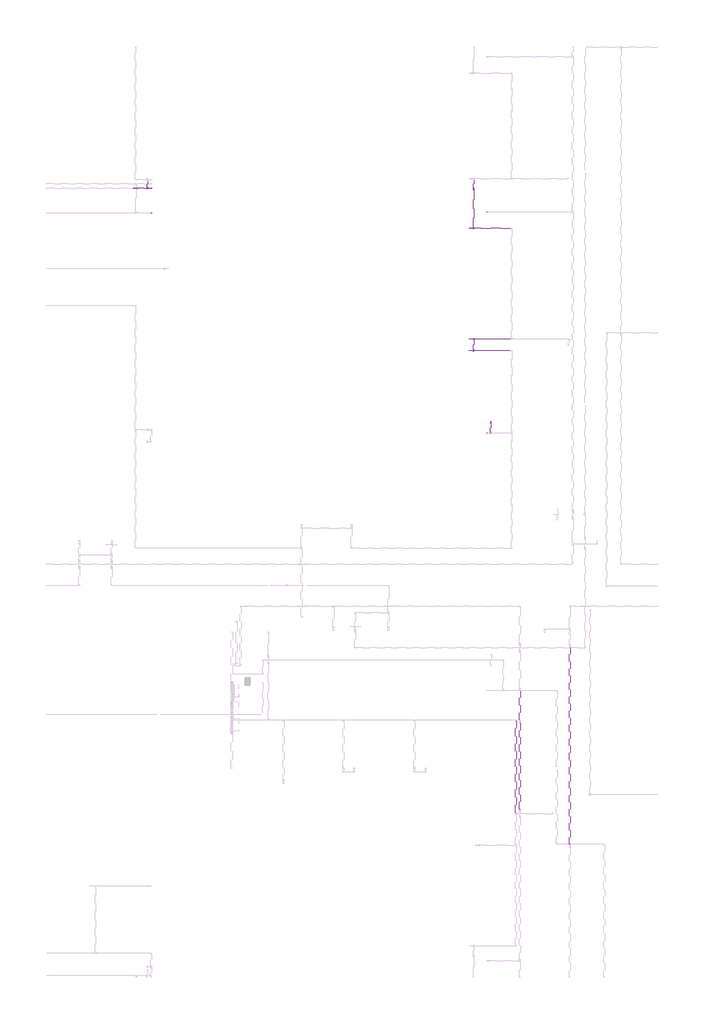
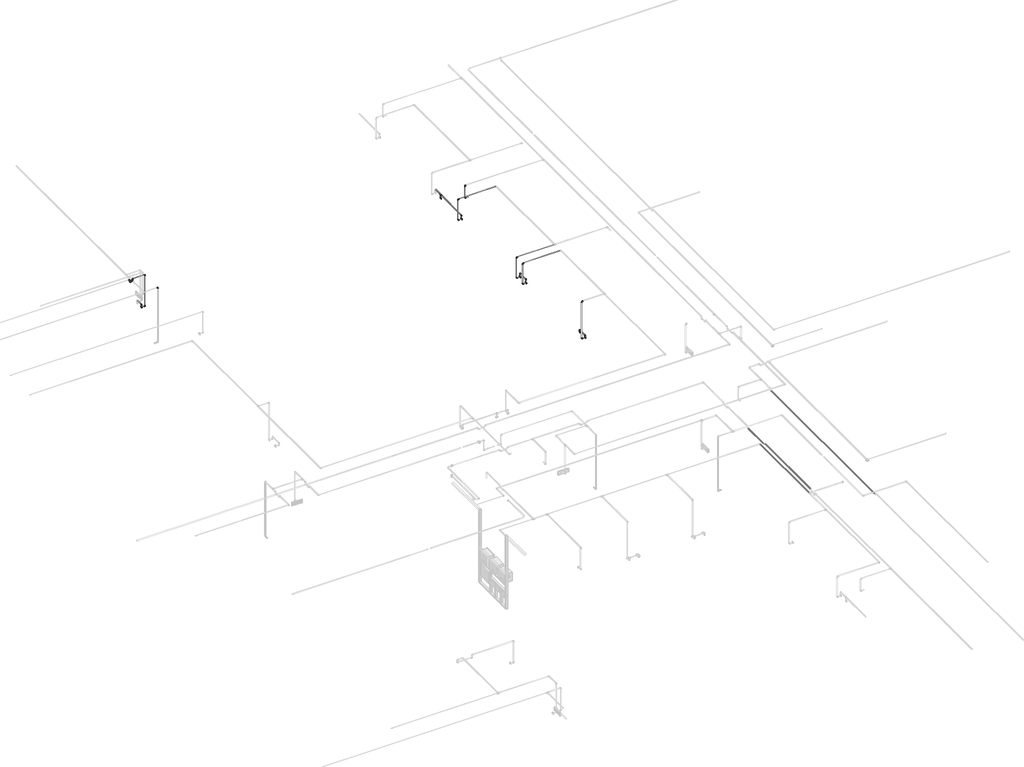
# One storey, part 23 of 40: 35 cable carrier segments, 24 cable carrier fittings, 7 electric appliances.
"""IFC4 building model written with IfcOpenShell, lengths in millimetres."""

from ifc_helpers import new_model, si_unit, point, frame, frame_2d, origin, place, context, project, spatial, circle_curve, trimmed, segment, composite_curve, outline, extrude, transform, mapped, element, save
from components import cable_carrier_fitting_69f1a801, cable_carrier_fitting_8404fc2a, cable_carrier_fitting_8fd13dfc, electric_appliance_5961a143

model = new_model("IFC4")

# Units and contexts
model_context = context("Model", 3, world=origin())
ifc_project = project(units=[si_unit("LENGTHUNIT", "METRE", prefix="MILLI")], contexts=[model_context])

# Site, building, storey
site = spatial("IfcSite", under=ifc_project)
building = spatial("IfcBuilding", under=site)
storey = spatial("IfcBuildingStorey", under=building, Name="1 этаж", Elevation=0.0)

# Cable carrier fittings
placement = place(None, origin())
cable_carrier_fitting_shape = cable_carrier_fitting_69f1a801(model_context)
element("IfcCableCarrierFitting", 1, ObjectType="ADSK_Поворот_Минимальный размер : Неспецифицируемый", at=placement, inside=storey, context=model_context, shape_type="MappedRepresentation", body=[
    mapped(cable_carrier_fitting_shape, transform((-25415.3240021, 15809.6370105, 2300.0), x_axis=(0.0, 0.0, 1.0), y_axis=(0.0, 1.0, 0.0), z_axis=(-1.0, 0.0, 0.0))),
])
element("IfcCableCarrierFitting", 2, ObjectType="ADSK_Поворот_Минимальный размер : Неспецифицируемый", at=placement, inside=storey, context=model_context, shape_type="MappedRepresentation", body=[
    mapped(cable_carrier_fitting_shape, transform((-25315.1241965, 15809.6370105, 2212.0911237), x_axis=(1.0, 0.0, 0.0), y_axis=(0.0, 0.0, 1.0), z_axis=(0.0, -1.0, 0.0))),
])
element("IfcCableCarrierFitting", 3, ObjectType="ADSK_Поворот_Минимальный размер : Неспецифицируемый", at=placement, inside=storey, context=model_context, shape_type="MappedRepresentation", body=[
    mapped(cable_carrier_fitting_shape, transform((-25315.1241965, 15809.6370105, 3187.0), x_axis=(0.0, 0.0, 1.0), y_axis=(-1.0, 0.0, 0.0), z_axis=(0.0, -1.0, 0.0))),
])
element("IfcCableCarrierFitting", 4, ObjectType="ADSK_Поворот_Минимальный размер : Неспецифицируемый", at=placement, inside=storey, context=model_context, shape_type="MappedRepresentation", body=[
    mapped(cable_carrier_fitting_shape, transform((-25690.1241965, 15809.6370105, 3187.0), x_axis=(-1.0, 0.0, 0.0), y_axis=(0.0, 0.0, -1.0), z_axis=(0.0, -1.0, 0.0))),
])
element("IfcCableCarrierFitting", 5, ObjectType="ADSK_Поворот_Минимальный размер : Неспецифицируемый", at=placement, inside=storey, context=model_context, shape_type="MappedRepresentation", body=[
    mapped(cable_carrier_fitting_shape, transform((-25690.1241965, 15809.6370105, 3120.0), x_axis=(0.0, 0.0, -1.0), y_axis=(-1.0, 0.0, 0.0), z_axis=(0.0, 1.0, 0.0))),
])
element("IfcCableCarrierFitting", 6, ObjectType="ADSK_Поворот_Минимальный размер : Неспецифицируемый", at=placement, inside=storey, context=model_context, shape_type="MappedRepresentation", body=[
    mapped(cable_carrier_fitting_shape, transform((-25762.6241965, 15809.6370105, 3120.0), x_axis=(-1.0, 0.0, 0.0), y_axis=(0.0, 0.0, 1.0), z_axis=(0.0, 1.0, 0.0))),
])
element("IfcCableCarrierFitting", 7, ObjectType="ADSK_Поворот_Минимальный размер : Неспецифицируемый", at=placement, inside=storey, context=model_context, shape_type="MappedRepresentation", body=[
    mapped(cable_carrier_fitting_shape, transform((-25762.6241965, 15809.6370105, 3187.0), x_axis=(0.0, 0.0, 1.0), y_axis=(-1.0, 0.0, 0.0), z_axis=(0.0, -1.0, 0.0))),
])
element("IfcCableCarrierFitting", 8, ObjectType="ADSK_Поворот_Минимальный размер : Неспецифицируемый", at=placement, inside=storey, context=model_context, shape_type="MappedRepresentation", body=[
    mapped(cable_carrier_fitting_shape, transform((-16646.3240021, 11759.6370105, 2650.0), x_axis=(0.0, 0.0, 1.0), y_axis=(0.0, -1.0, 0.0), z_axis=(1.0, 0.0, 0.0))),
])
element("IfcCableCarrierFitting", 9, ObjectType="ADSK_Поворот_Минимальный размер : Неспецифицируемый", at=placement, inside=storey, context=model_context, shape_type="MappedRepresentation", body=[
    mapped(cable_carrier_fitting_shape, transform((-16646.3240021, 11449.6370105, 2650.0), x_axis=(0.0, 0.0, 1.0), y_axis=(0.0, 1.0, 0.0), z_axis=(-1.0, 0.0, 0.0))),
])
element("IfcCableCarrierFitting", 10, ObjectType="ADSK_Поворот_Минимальный размер : Неспецифицируемый", at=placement, inside=storey, context=model_context, shape_type="MappedRepresentation", body=[
    mapped(cable_carrier_fitting_shape, transform((-16746.5238077, 11449.6370105, 2535.0911237), x_axis=(-1.0, 0.0, 0.0), y_axis=(0.0, 0.0, 1.0), z_axis=(0.0, 1.0, 0.0))),
])
element("IfcCableCarrierFitting", 11, ObjectType="ADSK_Поворот_Минимальный размер : Неспецифицируемый", at=placement, inside=storey, context=model_context, shape_type="MappedRepresentation", body=[
    mapped(cable_carrier_fitting_shape, transform((-16746.5238077, 11759.6370105, 2535.0527319), x_axis=(-1.0, 0.0, 0.0), y_axis=(0.0, 0.0, 1.0), z_axis=(0.0, 1.0, 0.0))),
])
element("IfcCableCarrierFitting", 12, ObjectType="ADSK_Поворот_Минимальный размер : Неспецифицируемый", at=placement, inside=storey, context=model_context, shape_type="MappedRepresentation", body=[
    mapped(cable_carrier_fitting_shape, transform((-16646.3240021, 14732.1370105, 2650.0), x_axis=(0.0, 0.0, 1.0), y_axis=(0.0, 1.0, 0.0), z_axis=(-1.0, 0.0, 0.0))),
])
element("IfcCableCarrierFitting", 13, ObjectType="ADSK_Поворот_Минимальный размер : Неспецифицируемый", at=placement, inside=storey, context=model_context, shape_type="MappedRepresentation", body=[
    mapped(cable_carrier_fitting_shape, transform((-16746.5238077, 14732.1370105, 2534.0911237), x_axis=(-1.0, 0.0, 0.0), y_axis=(0.0, 0.0, 1.0), z_axis=(0.0, 1.0, 0.0))),
])
element("IfcCableCarrierFitting", 14, ObjectType="ADSK_Поворот_Минимальный размер : Неспецифицируемый", at=placement, inside=storey, context=model_context, shape_type="MappedRepresentation", body=[
    mapped(cable_carrier_fitting_shape, transform((-16746.5238077, 14732.1370105, 3187.0), x_axis=(0.0, 0.0, 1.0), y_axis=(1.0, 0.0, 0.0), z_axis=(0.0, 1.0, 0.0))),
])
element("IfcCableCarrierFitting", 15, ObjectType="ADSK_Поворот_Минимальный размер : Неспецифицируемый", at=placement, inside=storey, context=model_context, shape_type="MappedRepresentation", body=[
    mapped(cable_carrier_fitting_shape, transform((-16746.5238077, 11759.6370105, 3187.0), x_axis=(0.0, 0.0, 1.0), y_axis=(1.0, 0.0, 0.0), z_axis=(0.0, 1.0, 0.0))),
])
element("IfcCableCarrierFitting", 16, ObjectType="ADSK_Поворот_Минимальный размер : Неспецифицируемый", at=placement, inside=storey, context=model_context, shape_type="MappedRepresentation", body=[
    mapped(cable_carrier_fitting_shape, transform((-16746.5238077, 11449.6370105, 3187.0), x_axis=(0.0, 0.0, 1.0), y_axis=(1.0, 0.0, 0.0), z_axis=(0.0, 1.0, 0.0))),
])
element("IfcCableCarrierFitting", 17, ObjectType="ADSK_Поворот_Минимальный размер : Неспецифицируемый", at=placement, inside=storey, context=model_context, shape_type="MappedRepresentation", body=[
    mapped(cable_carrier_fitting_shape, transform((-16289.5238077, 15172.1370105, 2797.4861504), x_axis=(-1.0, 0.0, 0.0), y_axis=(0.0, 0.0, 1.0), z_axis=(0.0, 1.0, 0.0))),
])
element("IfcCableCarrierFitting", 18, ObjectType="ADSK_Поворот_Минимальный размер : Неспецифицируемый", at=placement, inside=storey, context=model_context, shape_type="MappedRepresentation", body=[
    mapped(cable_carrier_fitting_shape, transform((-16189.3240021, 9518.9499394, 2100.0), x_axis=(0.0, 0.0, 1.0), y_axis=(0.0, -1.0, 0.0), z_axis=(1.0, 0.0, 0.0))),
])
element("IfcCableCarrierFitting", 19, ObjectType="ADSK_Поворот_Минимальный размер : Неспецифицируемый", at=placement, inside=storey, context=model_context, shape_type="MappedRepresentation", body=[
    mapped(cable_carrier_fitting_shape, transform((-16189.3240021, 9234.4907448, 2100.0), x_axis=(0.0, 0.0, 1.0), y_axis=(0.0, 1.0, 0.0), z_axis=(-1.0, 0.0, 0.0))),
])
element("IfcCableCarrierFitting", 20, ObjectType="ADSK_Поворот_Минимальный размер : Неспецифицируемый", at=placement, inside=storey, context=model_context, shape_type="MappedRepresentation", body=[
    mapped(cable_carrier_fitting_shape, transform((-16289.5238077, 9234.4907448, 2028.0911237), x_axis=(-1.0, 0.0, 0.0), y_axis=(0.0, 0.0, 1.0), z_axis=(0.0, 1.0, 0.0))),
])
element("IfcCableCarrierFitting", 21, ObjectType="ADSK_Поворот_Минимальный размер : Неспецифицируемый", at=placement, inside=storey, context=model_context, shape_type="MappedRepresentation", body=[
    mapped(cable_carrier_fitting_shape, transform((-16289.5238077, 9234.4907448, 3187.0), x_axis=(0.0, 0.0, 1.0), y_axis=(1.0, 0.0, 0.0), z_axis=(0.0, 1.0, 0.0))),
])
element("IfcCableCarrierFitting", 22, ObjectType="ADSK_Поворот_Минимальный размер : Неспецифицируемый", at=placement, inside=storey, context=model_context, shape_type="MappedRepresentation", body=[
    mapped(cable_carrier_fitting_shape, transform((-16289.5238077, 15172.1370105, 3180.0), x_axis=(0.0, 0.0, 1.0), y_axis=(1.0, 0.0, 0.0), z_axis=(0.0, 1.0, 0.0))),
])
cable_carrier_fitting_2_shape = cable_carrier_fitting_8404fc2a(model_context)
element("IfcCableCarrierFitting", 23, ObjectType="ADSK_Поворот_Минимальный размер : Неспецифицируемый", at=placement, inside=storey, context=model_context, shape_type="MappedRepresentation", body=[
    mapped(cable_carrier_fitting_2_shape, transform((-25315.1241965, 15147.1370102, 3190.000908), x_axis=(0.0, 0.0, 1.0), y_axis=(-0.9999999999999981, -6.229484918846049e-08, 0.0), z_axis=(6.229484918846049e-08, -0.9999999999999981, 0.0))),
])
cable_carrier_fitting_3_shape = cable_carrier_fitting_8fd13dfc(model_context)
element("IfcCableCarrierFitting", 24, ObjectType="ADSK_Тройник : ПВХ", at=placement, inside=storey, context=model_context, shape_type="MappedRepresentation", body=[
    mapped(cable_carrier_fitting_3_shape, transform((-16646.3240021, 15784.6370105, 2650.0), x_axis=(0.0, 1.0, 0.0), y_axis=(0.0, 0.0, 1.0), z_axis=(1.0, 0.0, 0.0))),
])

# Cable carrier segments
element("IfcCableCarrierSegment", 25, ObjectType="Гофрированная труба", at=placement, inside=storey, context=model_context, shape_type="SweptSolid", body=[
    extrude(outline(composite_curve([segment(trimmed(circle_curve(frame_2d((2300.0, -25415.3240021)), 10.0), [point((2300.0, -25405.3240021))], [point((2310.0, -25415.3240021))], False, "CARTESIAN"), True, "CONTINUOUS"), segment(trimmed(circle_curve(frame_2d((2300.0, -25415.3240021)), 10.0), [point((2310.0, -25415.3240021))], [point((2300.0, -25425.3240021))], False, "CARTESIAN"), True, "CONTINUOUS"), segment(trimmed(circle_curve(frame_2d((2300.0, -25415.3240021)), 10.0), [point((2300.0, -25425.3240021))], [point((2290.0, -25415.3240021))], False, "CARTESIAN"), True, "CONTINUOUS"), segment(trimmed(circle_curve(frame_2d((2300.0, -25415.3240021)), 10.0), [point((2290.0, -25415.3240021))], [point((2300.0, -25405.3240021))], False, "CARTESIAN"), True, "CONTINUOUS")], self_intersect=False)), frame((0.0, 15830.6370105, 0.0), z_axis=(0.0, 1.0, 0.0), x_axis=(0.0, 0.0, 1.0)), (0.0, 0.0, 1.0), 183.0),
])
element("IfcCableCarrierSegment", 26, ObjectType="Гофрированная труба", at=placement, inside=storey, context=model_context, shape_type="SweptSolid", body=[
    extrude(outline(composite_curve([segment(trimmed(circle_curve(frame_2d((-25415.3240021, 15809.6370105)), 10.0), [point((-25425.3240021, 15809.6370105))], [point((-25415.3240021, 15819.6370105))], False, "CARTESIAN"), True, "CONTINUOUS"), segment(trimmed(circle_curve(frame_2d((-25415.3240021, 15809.6370105)), 10.0), [point((-25415.3240021, 15819.6370105))], [point((-25405.3240021, 15809.6370105))], False, "CARTESIAN"), True, "CONTINUOUS"), segment(trimmed(circle_curve(frame_2d((-25415.3240021, 15809.6370105)), 10.0), [point((-25405.3240021, 15809.6370105))], [point((-25415.3240021, 15799.6370105))], False, "CARTESIAN"), True, "CONTINUOUS"), segment(trimmed(circle_curve(frame_2d((-25415.3240021, 15809.6370105)), 10.0), [point((-25415.3240021, 15799.6370105))], [point((-25425.3240021, 15809.6370105))], False, "CARTESIAN"), True, "CONTINUOUS")], self_intersect=False)), frame((0.0, 0.0, 2241.1207114), z_axis=(0.0, 0.0, 1.0), x_axis=(1.0, 0.0, 0.0)), (0.0, 0.0, 1.0), 37.8792886),
])
element("IfcCableCarrierSegment", 27, ObjectType="Гофрированная труба", at=placement, inside=storey, context=model_context, shape_type="SweptSolid", body=[
    extrude(outline(composite_curve([segment(trimmed(circle_curve(frame_2d((15809.6370105, 3187.0)), 10.0), [point((15819.6370105, 3187.0))], [point((15809.6370105, 3177.0))], False, "CARTESIAN"), True, "CONTINUOUS"), segment(trimmed(circle_curve(frame_2d((15809.6370105, 3187.0)), 10.0), [point((15809.6370105, 3177.0))], [point((15799.6370105, 3187.0))], False, "CARTESIAN"), True, "CONTINUOUS"), segment(trimmed(circle_curve(frame_2d((15809.6370105, 3187.0)), 10.0), [point((15799.6370105, 3187.0))], [point((15809.6370105, 3197.0))], False, "CARTESIAN"), True, "CONTINUOUS"), segment(trimmed(circle_curve(frame_2d((15809.6370105, 3187.0)), 10.0), [point((15809.6370105, 3197.0))], [point((15819.6370105, 3187.0))], False, "CARTESIAN"), True, "CONTINUOUS")], self_intersect=False)), frame((-25669.1241965, 0.0, 0.0), z_axis=(1.0, 0.0, 0.0), x_axis=(0.0, 1.0, 0.0)), (0.0, 0.0, 1.0), 333.0),
])
element("IfcCableCarrierSegment", 28, ObjectType="Гофрированная труба", at=placement, inside=storey, context=model_context, shape_type="SweptSolid", body=[
    extrude(outline(composite_curve([segment(trimmed(circle_curve(frame_2d((15809.6370105, 2212.0911237)), 10.0), [point((15799.6370105, 2212.0911237))], [point((15809.6370105, 2222.0911237))], False, "CARTESIAN"), True, "CONTINUOUS"), segment(trimmed(circle_curve(frame_2d((15809.6370105, 2212.0911237)), 10.0), [point((15809.6370105, 2222.0911237))], [point((15819.6370105, 2212.0911237))], False, "CARTESIAN"), True, "CONTINUOUS"), segment(trimmed(circle_curve(frame_2d((15809.6370105, 2212.0911237)), 10.0), [point((15819.6370105, 2212.0911237))], [point((15809.6370105, 2202.0911237))], False, "CARTESIAN"), True, "CONTINUOUS"), segment(trimmed(circle_curve(frame_2d((15809.6370105, 2212.0911237)), 10.0), [point((15809.6370105, 2202.0911237))], [point((15799.6370105, 2212.0911237))], False, "CARTESIAN"), True, "CONTINUOUS")], self_intersect=False)), frame((-25412.3240021, 0.0, 0.0), z_axis=(1.0, 0.0, 0.0), x_axis=(0.0, 1.0, 0.0)), (0.0, 0.0, 1.0), 76.1998056),
])
element("IfcCableCarrierSegment", 29, ObjectType="Гофрированная труба", at=placement, inside=storey, context=model_context, shape_type="SweptSolid", body=[
    extrude(outline(composite_curve([segment(trimmed(circle_curve(frame_2d((-25315.1241965, 15809.6370105)), 10.0), [point((-25325.1241965, 15809.6370105))], [point((-25315.1241965, 15819.6370105))], False, "CARTESIAN"), True, "CONTINUOUS"), segment(trimmed(circle_curve(frame_2d((-25315.1241965, 15809.6370105)), 10.0), [point((-25315.1241965, 15819.6370105))], [point((-25305.1241965, 15809.6370105))], False, "CARTESIAN"), True, "CONTINUOUS"), segment(trimmed(circle_curve(frame_2d((-25315.1241965, 15809.6370105)), 10.0), [point((-25305.1241965, 15809.6370105))], [point((-25315.1241965, 15799.6370105))], False, "CARTESIAN"), True, "CONTINUOUS"), segment(trimmed(circle_curve(frame_2d((-25315.1241965, 15809.6370105)), 10.0), [point((-25315.1241965, 15799.6370105))], [point((-25325.1241965, 15809.6370105))], False, "CARTESIAN"), True, "CONTINUOUS")], self_intersect=False)), frame((0.0, 0.0, 2233.0911237), z_axis=(0.0, 0.0, 1.0), x_axis=(1.0, 0.0, 0.0)), (0.0, 0.0, 1.0), 932.9088763),
])
element("IfcCableCarrierSegment", 30, ObjectType="Гофрированная труба", at=placement, inside=storey, context=model_context, shape_type="SweptSolid", body=[
    extrude(outline(composite_curve([segment(trimmed(circle_curve(frame_2d((15809.6370105, 3120.0)), 10.0), [point((15819.6370105, 3120.0))], [point((15809.6370105, 3110.0))], False, "CARTESIAN"), True, "CONTINUOUS"), segment(trimmed(circle_curve(frame_2d((15809.6370105, 3120.0)), 10.0), [point((15809.6370105, 3110.0))], [point((15799.6370105, 3120.0))], False, "CARTESIAN"), True, "CONTINUOUS"), segment(trimmed(circle_curve(frame_2d((15809.6370105, 3120.0)), 10.0), [point((15799.6370105, 3120.0))], [point((15809.6370105, 3130.0))], False, "CARTESIAN"), True, "CONTINUOUS"), segment(trimmed(circle_curve(frame_2d((15809.6370105, 3120.0)), 10.0), [point((15809.6370105, 3130.0))], [point((15819.6370105, 3120.0))], False, "CARTESIAN"), True, "CONTINUOUS")], self_intersect=False)), frame((-25741.6241965, 0.0, 0.0), z_axis=(1.0, 0.0, 0.0), x_axis=(0.0, 1.0, 0.0)), (0.0, 0.0, 1.0), 30.5),
])
element("IfcCableCarrierSegment", 31, ObjectType="Гофрированная труба", at=placement, inside=storey, context=model_context, shape_type="SweptSolid", body=[
    extrude(outline(composite_curve([segment(trimmed(circle_curve(frame_2d((-25690.1241965, 15809.6370105)), 10.0), [point((-25680.1241965, 15809.6370105))], [point((-25690.1241965, 15799.6370105))], False, "CARTESIAN"), True, "CONTINUOUS"), segment(trimmed(circle_curve(frame_2d((-25690.1241965, 15809.6370105)), 10.0), [point((-25690.1241965, 15799.6370105))], [point((-25700.1241965, 15809.6370105))], False, "CARTESIAN"), True, "CONTINUOUS"), segment(trimmed(circle_curve(frame_2d((-25690.1241965, 15809.6370105)), 10.0), [point((-25700.1241965, 15809.6370105))], [point((-25690.1241965, 15819.6370105))], False, "CARTESIAN"), True, "CONTINUOUS"), segment(trimmed(circle_curve(frame_2d((-25690.1241965, 15809.6370105)), 10.0), [point((-25690.1241965, 15819.6370105))], [point((-25680.1241965, 15809.6370105))], False, "CARTESIAN"), True, "CONTINUOUS")], self_intersect=False)), frame((0.0, 0.0, 3141.0), z_axis=(0.0, 0.0, 1.0), x_axis=(1.0, 0.0, 0.0)), (0.0, 0.0, 1.0), 25.0),
])
element("IfcCableCarrierSegment", 32, ObjectType="Гофрированная труба", at=placement, inside=storey, context=model_context, shape_type="SweptSolid", body=[
    extrude(outline(composite_curve([segment(trimmed(circle_curve(frame_2d((-25762.6241965, 15809.6370105)), 10.0), [point((-25772.6241965, 15809.6370105))], [point((-25762.6241965, 15819.6370105))], False, "CARTESIAN"), True, "CONTINUOUS"), segment(trimmed(circle_curve(frame_2d((-25762.6241965, 15809.6370105)), 10.0), [point((-25762.6241965, 15819.6370105))], [point((-25752.6241965, 15809.6370105))], False, "CARTESIAN"), True, "CONTINUOUS"), segment(trimmed(circle_curve(frame_2d((-25762.6241965, 15809.6370105)), 10.0), [point((-25752.6241965, 15809.6370105))], [point((-25762.6241965, 15799.6370105))], False, "CARTESIAN"), True, "CONTINUOUS"), segment(trimmed(circle_curve(frame_2d((-25762.6241965, 15809.6370105)), 10.0), [point((-25762.6241965, 15799.6370105))], [point((-25772.6241965, 15809.6370105))], False, "CARTESIAN"), True, "CONTINUOUS")], self_intersect=False)), frame((0.0, 0.0, 3141.0), z_axis=(0.0, 0.0, 1.0), x_axis=(1.0, 0.0, 0.0)), (0.0, 0.0, 1.0), 25.0),
])
element("IfcCableCarrierSegment", 33, ObjectType="Гофрированная труба", at=placement, inside=storey, context=model_context, shape_type="SweptSolid", body=[
    extrude(outline(composite_curve([segment(trimmed(circle_curve(frame_2d((2650.0, -16646.3240021)), 10.0), [point((2650.0, -16656.3240021))], [point((2640.0, -16646.3240021))], False, "CARTESIAN"), True, "CONTINUOUS"), segment(trimmed(circle_curve(frame_2d((2650.0, -16646.3240021)), 10.0), [point((2640.0, -16646.3240021))], [point((2650.0, -16636.3240021))], False, "CARTESIAN"), True, "CONTINUOUS"), segment(trimmed(circle_curve(frame_2d((2650.0, -16646.3240021)), 10.0), [point((2650.0, -16636.3240021))], [point((2660.0, -16646.3240021))], False, "CARTESIAN"), True, "CONTINUOUS"), segment(trimmed(circle_curve(frame_2d((2650.0, -16646.3240021)), 10.0), [point((2660.0, -16646.3240021))], [point((2650.0, -16656.3240021))], False, "CARTESIAN"), True, "CONTINUOUS")], self_intersect=False)), frame((0.0, 11470.6370105, 0.0), z_axis=(0.0, 1.0, 0.0), x_axis=(0.0, 0.0, 1.0)), (0.0, 0.0, 1.0), 268.0),
])
element("IfcCableCarrierSegment", 34, ObjectType="Гофрированная труба", at=placement, inside=storey, context=model_context, shape_type="SweptSolid", body=[
    extrude(outline(composite_curve([segment(trimmed(circle_curve(frame_2d((-16646.3240021, 11449.6370105)), 10.0), [point((-16656.3240021, 11449.6370105))], [point((-16646.3240021, 11459.6370105))], False, "CARTESIAN"), True, "CONTINUOUS"), segment(trimmed(circle_curve(frame_2d((-16646.3240021, 11449.6370105)), 10.0), [point((-16646.3240021, 11459.6370105))], [point((-16636.3240021, 11449.6370105))], False, "CARTESIAN"), True, "CONTINUOUS"), segment(trimmed(circle_curve(frame_2d((-16646.3240021, 11449.6370105)), 10.0), [point((-16636.3240021, 11449.6370105))], [point((-16646.3240021, 11439.6370105))], False, "CARTESIAN"), True, "CONTINUOUS"), segment(trimmed(circle_curve(frame_2d((-16646.3240021, 11449.6370105)), 10.0), [point((-16646.3240021, 11439.6370105))], [point((-16656.3240021, 11449.6370105))], False, "CARTESIAN"), True, "CONTINUOUS")], self_intersect=False)), frame((0.0, 0.0, 2564.1207114), z_axis=(0.0, 0.0, 1.0), x_axis=(1.0, 0.0, 0.0)), (0.0, 0.0, 1.0), 64.8792886),
])
element("IfcCableCarrierSegment", 35, ObjectType="Гофрированная труба", at=placement, inside=storey, context=model_context, shape_type="SweptSolid", body=[
    extrude(outline(composite_curve([segment(trimmed(circle_curve(frame_2d((-16646.3240021, 11759.6370105)), 10.0), [point((-16656.3240021, 11759.6370105))], [point((-16646.3240021, 11769.6370105))], False, "CARTESIAN"), True, "CONTINUOUS"), segment(trimmed(circle_curve(frame_2d((-16646.3240021, 11759.6370105)), 10.0), [point((-16646.3240021, 11769.6370105))], [point((-16636.3240021, 11759.6370105))], False, "CARTESIAN"), True, "CONTINUOUS"), segment(trimmed(circle_curve(frame_2d((-16646.3240021, 11759.6370105)), 10.0), [point((-16636.3240021, 11759.6370105))], [point((-16646.3240021, 11749.6370105))], False, "CARTESIAN"), True, "CONTINUOUS"), segment(trimmed(circle_curve(frame_2d((-16646.3240021, 11759.6370105)), 10.0), [point((-16646.3240021, 11749.6370105))], [point((-16656.3240021, 11759.6370105))], False, "CARTESIAN"), True, "CONTINUOUS")], self_intersect=False)), frame((0.0, 0.0, 2564.0823197), z_axis=(0.0, 0.0, 1.0), x_axis=(1.0, 0.0, 0.0)), (0.0, 0.0, 1.0), 64.9176803),
])
element("IfcCableCarrierSegment", 36, ObjectType="Гофрированная труба", at=placement, inside=storey, context=model_context, shape_type="SweptSolid", body=[
    extrude(outline(composite_curve([segment(trimmed(circle_curve(frame_2d((11449.6370105, 3187.0)), 10.0), [point((11439.6370105, 3187.0))], [point((11449.6370105, 3197.0))], False, "CARTESIAN"), True, "CONTINUOUS"), segment(trimmed(circle_curve(frame_2d((11449.6370105, 3187.0)), 10.0), [point((11449.6370105, 3197.0))], [point((11459.6370105, 3187.0))], False, "CARTESIAN"), True, "CONTINUOUS"), segment(trimmed(circle_curve(frame_2d((11449.6370105, 3187.0)), 10.0), [point((11459.6370105, 3187.0))], [point((11449.6370105, 3177.0))], False, "CARTESIAN"), True, "CONTINUOUS"), segment(trimmed(circle_curve(frame_2d((11449.6370105, 3187.0)), 10.0), [point((11449.6370105, 3177.0))], [point((11439.6370105, 3187.0))], False, "CARTESIAN"), True, "CONTINUOUS")], self_intersect=False)), frame((-16725.5238077, 0.0, 0.0), z_axis=(1.0, 0.0, 0.0), x_axis=(0.0, 1.0, 0.0)), (0.0, 0.0, 1.0), 1082.1998056),
])
element("IfcCableCarrierSegment", 37, ObjectType="Гофрированная труба", at=placement, inside=storey, context=model_context, shape_type="SweptSolid", body=[
    extrude(outline(composite_curve([segment(trimmed(circle_curve(frame_2d((11449.6370105, 2535.0911237)), 10.0), [point((11459.6370105, 2535.0911237))], [point((11449.6370105, 2525.0911237))], False, "CARTESIAN"), True, "CONTINUOUS"), segment(trimmed(circle_curve(frame_2d((11449.6370105, 2535.0911237)), 10.0), [point((11449.6370105, 2525.0911237))], [point((11439.6370105, 2535.0911237))], False, "CARTESIAN"), True, "CONTINUOUS"), segment(trimmed(circle_curve(frame_2d((11449.6370105, 2535.0911237)), 10.0), [point((11439.6370105, 2535.0911237))], [point((11449.6370105, 2545.0911237))], False, "CARTESIAN"), True, "CONTINUOUS"), segment(trimmed(circle_curve(frame_2d((11449.6370105, 2535.0911237)), 10.0), [point((11449.6370105, 2545.0911237))], [point((11459.6370105, 2535.0911237))], False, "CARTESIAN"), True, "CONTINUOUS")], self_intersect=False)), frame((-16725.5238077, 0.0, 0.0), z_axis=(1.0, 0.0, 0.0), x_axis=(0.0, 1.0, 0.0)), (0.0, 0.0, 1.0), 76.1998056),
])
element("IfcCableCarrierSegment", 38, ObjectType="Гофрированная труба", at=placement, inside=storey, context=model_context, shape_type="SweptSolid", body=[
    extrude(outline(composite_curve([segment(trimmed(circle_curve(frame_2d((-16746.5238077, 11449.6370105)), 10.0), [point((-16756.5238077, 11449.6370105))], [point((-16746.5238077, 11459.6370105))], False, "CARTESIAN"), True, "CONTINUOUS"), segment(trimmed(circle_curve(frame_2d((-16746.5238077, 11449.6370105)), 10.0), [point((-16746.5238077, 11459.6370105))], [point((-16736.5238077, 11449.6370105))], False, "CARTESIAN"), True, "CONTINUOUS"), segment(trimmed(circle_curve(frame_2d((-16746.5238077, 11449.6370105)), 10.0), [point((-16736.5238077, 11449.6370105))], [point((-16746.5238077, 11439.6370105))], False, "CARTESIAN"), True, "CONTINUOUS"), segment(trimmed(circle_curve(frame_2d((-16746.5238077, 11449.6370105)), 10.0), [point((-16746.5238077, 11439.6370105))], [point((-16756.5238077, 11449.6370105))], False, "CARTESIAN"), True, "CONTINUOUS")], self_intersect=False)), frame((0.0, 0.0, 2556.0911237), z_axis=(0.0, 0.0, 1.0), x_axis=(1.0, 0.0, 0.0)), (0.0, 0.0, 1.0), 609.9088763),
])
element("IfcCableCarrierSegment", 39, ObjectType="Гофрированная труба", at=placement, inside=storey, context=model_context, shape_type="SweptSolid", body=[
    extrude(outline(composite_curve([segment(trimmed(circle_curve(frame_2d((11759.6370105, 2535.0527319)), 10.0), [point((11769.6370105, 2535.0527319))], [point((11759.6370105, 2525.0527319))], False, "CARTESIAN"), True, "CONTINUOUS"), segment(trimmed(circle_curve(frame_2d((11759.6370105, 2535.0527319)), 10.0), [point((11759.6370105, 2525.0527319))], [point((11749.6370105, 2535.0527319))], False, "CARTESIAN"), True, "CONTINUOUS"), segment(trimmed(circle_curve(frame_2d((11759.6370105, 2535.0527319)), 10.0), [point((11749.6370105, 2535.0527319))], [point((11759.6370105, 2545.0527319))], False, "CARTESIAN"), True, "CONTINUOUS"), segment(trimmed(circle_curve(frame_2d((11759.6370105, 2535.0527319)), 10.0), [point((11759.6370105, 2545.0527319))], [point((11769.6370105, 2535.0527319))], False, "CARTESIAN"), True, "CONTINUOUS")], self_intersect=False)), frame((-16725.5238077, 0.0, 0.0), z_axis=(1.0, 0.0, 0.0), x_axis=(0.0, 1.0, 0.0)), (0.0, 0.0, 1.0), 76.1998056),
])
element("IfcCableCarrierSegment", 40, ObjectType="Гофрированная труба", at=placement, inside=storey, context=model_context, shape_type="SweptSolid", body=[
    extrude(outline(composite_curve([segment(trimmed(circle_curve(frame_2d((-16746.5238077, 11759.6370105)), 10.0), [point((-16756.5238077, 11759.6370105))], [point((-16746.5238077, 11769.6370105))], False, "CARTESIAN"), True, "CONTINUOUS"), segment(trimmed(circle_curve(frame_2d((-16746.5238077, 11759.6370105)), 10.0), [point((-16746.5238077, 11769.6370105))], [point((-16736.5238077, 11759.6370105))], False, "CARTESIAN"), True, "CONTINUOUS"), segment(trimmed(circle_curve(frame_2d((-16746.5238077, 11759.6370105)), 10.0), [point((-16736.5238077, 11759.6370105))], [point((-16746.5238077, 11749.6370105))], False, "CARTESIAN"), True, "CONTINUOUS"), segment(trimmed(circle_curve(frame_2d((-16746.5238077, 11759.6370105)), 10.0), [point((-16746.5238077, 11749.6370105))], [point((-16756.5238077, 11759.6370105))], False, "CARTESIAN"), True, "CONTINUOUS")], self_intersect=False)), frame((0.0, 0.0, 2556.0527319), z_axis=(0.0, 0.0, 1.0), x_axis=(1.0, 0.0, 0.0)), (0.0, 0.0, 1.0), 609.9472681),
])
element("IfcCableCarrierSegment", 41, ObjectType="Гофрированная труба", at=placement, inside=storey, context=model_context, shape_type="SweptSolid", body=[
    extrude(outline(composite_curve([segment(trimmed(circle_curve(frame_2d((-16646.3240021, 14732.1370105)), 10.0), [point((-16656.3240021, 14732.1370105))], [point((-16646.3240021, 14742.1370105))], False, "CARTESIAN"), True, "CONTINUOUS"), segment(trimmed(circle_curve(frame_2d((-16646.3240021, 14732.1370105)), 10.0), [point((-16646.3240021, 14742.1370105))], [point((-16636.3240021, 14732.1370105))], False, "CARTESIAN"), True, "CONTINUOUS"), segment(trimmed(circle_curve(frame_2d((-16646.3240021, 14732.1370105)), 10.0), [point((-16636.3240021, 14732.1370105))], [point((-16646.3240021, 14722.1370105))], False, "CARTESIAN"), True, "CONTINUOUS"), segment(trimmed(circle_curve(frame_2d((-16646.3240021, 14732.1370105)), 10.0), [point((-16646.3240021, 14722.1370105))], [point((-16656.3240021, 14732.1370105))], False, "CARTESIAN"), True, "CONTINUOUS")], self_intersect=False)), frame((0.0, 0.0, 2563.1207114), z_axis=(0.0, 0.0, 1.0), x_axis=(1.0, 0.0, 0.0)), (0.0, 0.0, 1.0), 65.8792886),
])
element("IfcCableCarrierSegment", 42, ObjectType="Гофрированная труба", at=placement, inside=storey, context=model_context, shape_type="SweptSolid", body=[
    extrude(outline(composite_curve([segment(trimmed(circle_curve(frame_2d((-16646.3240021, 15784.6370105)), 10.0), [point((-16656.3240021, 15784.6370105))], [point((-16646.3240021, 15794.6370105))], False, "CARTESIAN"), True, "CONTINUOUS"), segment(trimmed(circle_curve(frame_2d((-16646.3240021, 15784.6370105)), 10.0), [point((-16646.3240021, 15794.6370105))], [point((-16636.3240021, 15784.6370105))], False, "CARTESIAN"), True, "CONTINUOUS"), segment(trimmed(circle_curve(frame_2d((-16646.3240021, 15784.6370105)), 10.0), [point((-16636.3240021, 15784.6370105))], [point((-16646.3240021, 15774.6370105))], False, "CARTESIAN"), True, "CONTINUOUS"), segment(trimmed(circle_curve(frame_2d((-16646.3240021, 15784.6370105)), 10.0), [point((-16646.3240021, 15774.6370105))], [point((-16656.3240021, 15784.6370105))], False, "CARTESIAN"), True, "CONTINUOUS")], self_intersect=False)), frame((0.0, 0.0, 2563.1207114), z_axis=(0.0, 0.0, 1.0), x_axis=(1.0, 0.0, 0.0)), (0.0, 0.0, 1.0), 56.8792886),
])
element("IfcCableCarrierSegment", 43, ObjectType="Гофрированная труба", at=placement, inside=storey, context=model_context, shape_type="SweptSolid", body=[
    extrude(outline(composite_curve([segment(trimmed(circle_curve(frame_2d((2650.0, -16646.3240021)), 10.0), [point((2650.0, -16656.3240021))], [point((2640.0, -16646.3240021))], False, "CARTESIAN"), True, "CONTINUOUS"), segment(trimmed(circle_curve(frame_2d((2650.0, -16646.3240021)), 10.0), [point((2640.0, -16646.3240021))], [point((2650.0, -16636.3240021))], False, "CARTESIAN"), True, "CONTINUOUS"), segment(trimmed(circle_curve(frame_2d((2650.0, -16646.3240021)), 10.0), [point((2650.0, -16636.3240021))], [point((2660.0, -16646.3240021))], False, "CARTESIAN"), True, "CONTINUOUS"), segment(trimmed(circle_curve(frame_2d((2650.0, -16646.3240021)), 10.0), [point((2660.0, -16646.3240021))], [point((2650.0, -16656.3240021))], False, "CARTESIAN"), True, "CONTINUOUS")], self_intersect=False)), frame((0.0, 14753.1370105, 0.0), z_axis=(0.0, 1.0, 0.0), x_axis=(0.0, 0.0, 1.0)), (0.0, 0.0, 1.0), 1001.5),
])
element("IfcCableCarrierSegment", 44, ObjectType="Гофрированная труба", at=placement, inside=storey, context=model_context, shape_type="SweptSolid", body=[
    extrude(outline(composite_curve([segment(trimmed(circle_curve(frame_2d((2650.0, -16646.3240021)), 10.0), [point((2650.0, -16656.3240021))], [point((2640.0, -16646.3240021))], False, "CARTESIAN"), True, "CONTINUOUS"), segment(trimmed(circle_curve(frame_2d((2650.0, -16646.3240021)), 10.0), [point((2640.0, -16646.3240021))], [point((2650.0, -16636.3240021))], False, "CARTESIAN"), True, "CONTINUOUS"), segment(trimmed(circle_curve(frame_2d((2650.0, -16646.3240021)), 10.0), [point((2650.0, -16636.3240021))], [point((2660.0, -16646.3240021))], False, "CARTESIAN"), True, "CONTINUOUS"), segment(trimmed(circle_curve(frame_2d((2650.0, -16646.3240021)), 10.0), [point((2660.0, -16646.3240021))], [point((2650.0, -16656.3240021))], False, "CARTESIAN"), True, "CONTINUOUS")], self_intersect=False)), frame((0.0, 15814.6370105, 0.0), z_axis=(0.0, 1.0, 0.0), x_axis=(0.0, 0.0, 1.0)), (0.0, 0.0, 1.0), 229.0),
])
element("IfcCableCarrierSegment", 45, ObjectType="Гофрированная труба", at=placement, inside=storey, context=model_context, shape_type="SweptSolid", body=[
    extrude(outline(composite_curve([segment(trimmed(circle_curve(frame_2d((14732.1370105, 3187.0)), 10.0), [point((14722.1370105, 3187.0))], [point((14732.1370105, 3197.0))], False, "CARTESIAN"), True, "CONTINUOUS"), segment(trimmed(circle_curve(frame_2d((14732.1370105, 3187.0)), 10.0), [point((14732.1370105, 3197.0))], [point((14742.1370105, 3187.0))], False, "CARTESIAN"), True, "CONTINUOUS"), segment(trimmed(circle_curve(frame_2d((14732.1370105, 3187.0)), 10.0), [point((14742.1370105, 3187.0))], [point((14732.1370105, 3177.0))], False, "CARTESIAN"), True, "CONTINUOUS"), segment(trimmed(circle_curve(frame_2d((14732.1370105, 3187.0)), 10.0), [point((14732.1370105, 3177.0))], [point((14722.1370105, 3187.0))], False, "CARTESIAN"), True, "CONTINUOUS")], self_intersect=False)), frame((-16725.5238077, 0.0, 0.0), z_axis=(1.0, 0.0, 0.0), x_axis=(0.0, 1.0, 0.0)), (0.0, 0.0, 1.0), 1082.1998056),
])
element("IfcCableCarrierSegment", 46, ObjectType="Гофрированная труба", at=placement, inside=storey, context=model_context, shape_type="SweptSolid", body=[
    extrude(outline(composite_curve([segment(trimmed(circle_curve(frame_2d((14732.1370105, 2534.0911237)), 10.0), [point((14742.1370105, 2534.0911237))], [point((14732.1370105, 2524.0911237))], False, "CARTESIAN"), True, "CONTINUOUS"), segment(trimmed(circle_curve(frame_2d((14732.1370105, 2534.0911237)), 10.0), [point((14732.1370105, 2524.0911237))], [point((14722.1370105, 2534.0911237))], False, "CARTESIAN"), True, "CONTINUOUS"), segment(trimmed(circle_curve(frame_2d((14732.1370105, 2534.0911237)), 10.0), [point((14722.1370105, 2534.0911237))], [point((14732.1370105, 2544.0911237))], False, "CARTESIAN"), True, "CONTINUOUS"), segment(trimmed(circle_curve(frame_2d((14732.1370105, 2534.0911237)), 10.0), [point((14732.1370105, 2544.0911237))], [point((14742.1370105, 2534.0911237))], False, "CARTESIAN"), True, "CONTINUOUS")], self_intersect=False)), frame((-16725.5238077, 0.0, 0.0), z_axis=(1.0, 0.0, 0.0), x_axis=(0.0, 1.0, 0.0)), (0.0, 0.0, 1.0), 76.1998056),
])
element("IfcCableCarrierSegment", 47, ObjectType="Гофрированная труба", at=placement, inside=storey, context=model_context, shape_type="SweptSolid", body=[
    extrude(outline(composite_curve([segment(trimmed(circle_curve(frame_2d((-16746.5238077, 14732.1370105)), 10.0), [point((-16756.5238077, 14732.1370105))], [point((-16746.5238077, 14742.1370105))], False, "CARTESIAN"), True, "CONTINUOUS"), segment(trimmed(circle_curve(frame_2d((-16746.5238077, 14732.1370105)), 10.0), [point((-16746.5238077, 14742.1370105))], [point((-16736.5238077, 14732.1370105))], False, "CARTESIAN"), True, "CONTINUOUS"), segment(trimmed(circle_curve(frame_2d((-16746.5238077, 14732.1370105)), 10.0), [point((-16736.5238077, 14732.1370105))], [point((-16746.5238077, 14722.1370105))], False, "CARTESIAN"), True, "CONTINUOUS"), segment(trimmed(circle_curve(frame_2d((-16746.5238077, 14732.1370105)), 10.0), [point((-16746.5238077, 14722.1370105))], [point((-16756.5238077, 14732.1370105))], False, "CARTESIAN"), True, "CONTINUOUS")], self_intersect=False)), frame((0.0, 0.0, 2555.0911237), z_axis=(0.0, 0.0, 1.0), x_axis=(1.0, 0.0, 0.0)), (0.0, 0.0, 1.0), 610.9088763),
])
element("IfcCableCarrierSegment", 48, ObjectType="Гофрированная труба", at=placement, inside=storey, context=model_context, shape_type="SweptSolid", body=[
    extrude(outline(composite_curve([segment(trimmed(circle_curve(frame_2d((3166.0, -15509.3240021)), 10.0), [point((3166.0, -15499.3240021))], [point((3176.0, -15509.3240021))], False, "CARTESIAN"), True, "CONTINUOUS"), segment(trimmed(circle_curve(frame_2d((3166.0, -15509.3240021)), 10.0), [point((3176.0, -15509.3240021))], [point((3166.0, -15519.3240021))], False, "CARTESIAN"), True, "CONTINUOUS"), segment(trimmed(circle_curve(frame_2d((3166.0, -15509.3240021)), 10.0), [point((3166.0, -15519.3240021))], [point((3156.0, -15509.3240021))], False, "CARTESIAN"), True, "CONTINUOUS"), segment(trimmed(circle_curve(frame_2d((3166.0, -15509.3240021)), 10.0), [point((3156.0, -15509.3240021))], [point((3166.0, -15499.3240021))], False, "CARTESIAN"), True, "CONTINUOUS")], self_intersect=False)), frame((0.0, -962.9837348, 0.0), z_axis=(0.0, 1.0, 0.0), x_axis=(0.0, 0.0, 1.0)), (0.0, 0.0, 1.0), 2466.6207453),
])
element("IfcCableCarrierSegment", 49, ObjectType="Гофрированная труба", at=placement, inside=storey, context=model_context, shape_type="SweptSolid", body=[
    extrude(outline(composite_curve([segment(trimmed(circle_curve(frame_2d((15172.1370105, 2797.4861504)), 10.0), [point((15182.1370105, 2797.4861504))], [point((15172.1370105, 2787.4861504))], False, "CARTESIAN"), True, "CONTINUOUS"), segment(trimmed(circle_curve(frame_2d((15172.1370105, 2797.4861504)), 10.0), [point((15172.1370105, 2787.4861504))], [point((15162.1370105, 2797.4861504))], False, "CARTESIAN"), True, "CONTINUOUS"), segment(trimmed(circle_curve(frame_2d((15172.1370105, 2797.4861504)), 10.0), [point((15162.1370105, 2797.4861504))], [point((15172.1370105, 2807.4861504))], False, "CARTESIAN"), True, "CONTINUOUS"), segment(trimmed(circle_curve(frame_2d((15172.1370105, 2797.4861504)), 10.0), [point((15172.1370105, 2807.4861504))], [point((15182.1370105, 2797.4861504))], False, "CARTESIAN"), True, "CONTINUOUS")], self_intersect=False)), frame((-16268.5238077, 0.0, 0.0), z_axis=(1.0, 0.0, 0.0), x_axis=(0.0, 1.0, 0.0)), (0.0, 0.0, 1.0), 76.1998056),
])
element("IfcCableCarrierSegment", 50, ObjectType="Гофрированная труба", at=placement, inside=storey, context=model_context, shape_type="SweptSolid", body=[
    extrude(outline(composite_curve([segment(trimmed(circle_curve(frame_2d((-16289.5238077, 15172.1370105)), 10.0), [point((-16299.5238077, 15172.1370105))], [point((-16289.5238077, 15182.1370105))], False, "CARTESIAN"), True, "CONTINUOUS"), segment(trimmed(circle_curve(frame_2d((-16289.5238077, 15172.1370105)), 10.0), [point((-16289.5238077, 15182.1370105))], [point((-16279.5238077, 15172.1370105))], False, "CARTESIAN"), True, "CONTINUOUS"), segment(trimmed(circle_curve(frame_2d((-16289.5238077, 15172.1370105)), 10.0), [point((-16279.5238077, 15172.1370105))], [point((-16289.5238077, 15162.1370105))], False, "CARTESIAN"), True, "CONTINUOUS"), segment(trimmed(circle_curve(frame_2d((-16289.5238077, 15172.1370105)), 10.0), [point((-16289.5238077, 15162.1370105))], [point((-16299.5238077, 15172.1370105))], False, "CARTESIAN"), True, "CONTINUOUS")], self_intersect=False)), frame((0.0, 0.0, 2818.4861504), z_axis=(0.0, 0.0, 1.0), x_axis=(1.0, 0.0, 0.0)), (0.0, 0.0, 1.0), 340.5138496),
])
element("IfcCableCarrierSegment", 51, ObjectType="Гофрированная труба", at=placement, inside=storey, context=model_context, shape_type="SweptSolid", body=[
    extrude(outline(composite_curve([segment(trimmed(circle_curve(frame_2d((3130.0, -15402.3240021)), 10.0), [point((3130.0, -15392.3240021))], [point((3140.0, -15402.3240021))], False, "CARTESIAN"), True, "CONTINUOUS"), segment(trimmed(circle_curve(frame_2d((3130.0, -15402.3240021)), 10.0), [point((3140.0, -15402.3240021))], [point((3130.0, -15412.3240021))], False, "CARTESIAN"), True, "CONTINUOUS"), segment(trimmed(circle_curve(frame_2d((3130.0, -15402.3240021)), 10.0), [point((3130.0, -15412.3240021))], [point((3120.0, -15402.3240021))], False, "CARTESIAN"), True, "CONTINUOUS"), segment(trimmed(circle_curve(frame_2d((3130.0, -15402.3240021)), 10.0), [point((3120.0, -15402.3240021))], [point((3130.0, -15392.3240021))], False, "CARTESIAN"), True, "CONTINUOUS")], self_intersect=False)), frame((0.0, 1513.9212818, 0.0), z_axis=(0.0, 1.0, 0.0), x_axis=(0.0, 0.0, 1.0)), (0.0, 0.0, 1.0), 811.4314575),
])
element("IfcCableCarrierSegment", 52, ObjectType="Гофрированная труба", at=placement, inside=storey, context=model_context, shape_type="SweptSolid", body=[
    extrude(outline(composite_curve([segment(trimmed(circle_curve(frame_2d((3180.0, -15402.3240021)), 10.0), [point((3180.0, -15412.3240021))], [point((3170.0, -15402.3240021))], False, "CARTESIAN"), True, "CONTINUOUS"), segment(trimmed(circle_curve(frame_2d((3180.0, -15402.3240021)), 10.0), [point((3170.0, -15402.3240021))], [point((3180.0, -15392.3240021))], False, "CARTESIAN"), True, "CONTINUOUS"), segment(trimmed(circle_curve(frame_2d((3180.0, -15402.3240021)), 10.0), [point((3180.0, -15392.3240021))], [point((3190.0, -15402.3240021))], False, "CARTESIAN"), True, "CONTINUOUS"), segment(trimmed(circle_curve(frame_2d((3180.0, -15402.3240021)), 10.0), [point((3190.0, -15402.3240021))], [point((3180.0, -15412.3240021))], False, "CARTESIAN"), True, "CONTINUOUS")], self_intersect=False)), frame((0.0, -867.1271923, 0.0), z_axis=(0.0, 1.0, 0.0), x_axis=(0.0, 0.0, 1.0)), (0.0, 0.0, 1.0), 2312.4799315),
])
element("IfcCableCarrierSegment", 53, ObjectType="Гофрированная труба", at=placement, inside=storey, context=model_context, shape_type="SweptSolid", body=[
    extrude(outline(composite_curve([segment(trimmed(circle_curve(frame_2d((2100.0, -16189.3240021)), 10.0), [point((2100.0, -16199.3240021))], [point((2090.0, -16189.3240021))], False, "CARTESIAN"), True, "CONTINUOUS"), segment(trimmed(circle_curve(frame_2d((2100.0, -16189.3240021)), 10.0), [point((2090.0, -16189.3240021))], [point((2100.0, -16179.3240021))], False, "CARTESIAN"), True, "CONTINUOUS"), segment(trimmed(circle_curve(frame_2d((2100.0, -16189.3240021)), 10.0), [point((2100.0, -16179.3240021))], [point((2110.0, -16189.3240021))], False, "CARTESIAN"), True, "CONTINUOUS"), segment(trimmed(circle_curve(frame_2d((2100.0, -16189.3240021)), 10.0), [point((2110.0, -16189.3240021))], [point((2100.0, -16199.3240021))], False, "CARTESIAN"), True, "CONTINUOUS")], self_intersect=False)), frame((0.0, 9255.4907448, 0.0), z_axis=(0.0, 1.0, 0.0), x_axis=(0.0, 0.0, 1.0)), (0.0, 0.0, 1.0), 242.4591945),
])
element("IfcCableCarrierSegment", 54, ObjectType="Гофрированная труба", at=placement, inside=storey, context=model_context, shape_type="SweptSolid", body=[
    extrude(outline(composite_curve([segment(trimmed(circle_curve(frame_2d((-16189.3240021, 9234.4907448)), 10.0), [point((-16199.3240021, 9234.4907448))], [point((-16189.3240021, 9244.4907448))], False, "CARTESIAN"), True, "CONTINUOUS"), segment(trimmed(circle_curve(frame_2d((-16189.3240021, 9234.4907448)), 10.0), [point((-16189.3240021, 9244.4907448))], [point((-16179.3240021, 9234.4907448))], False, "CARTESIAN"), True, "CONTINUOUS"), segment(trimmed(circle_curve(frame_2d((-16189.3240021, 9234.4907448)), 10.0), [point((-16179.3240021, 9234.4907448))], [point((-16189.3240021, 9224.4907448))], False, "CARTESIAN"), True, "CONTINUOUS"), segment(trimmed(circle_curve(frame_2d((-16189.3240021, 9234.4907448)), 10.0), [point((-16189.3240021, 9224.4907448))], [point((-16199.3240021, 9234.4907448))], False, "CARTESIAN"), True, "CONTINUOUS")], self_intersect=False)), frame((0.0, 0.0, 2057.1207114), z_axis=(0.0, 0.0, 1.0), x_axis=(1.0, 0.0, 0.0)), (0.0, 0.0, 1.0), 21.8792886),
])
element("IfcCableCarrierSegment", 55, ObjectType="Гофрированная труба", at=placement, inside=storey, context=model_context, shape_type="SweptSolid", body=[
    extrude(outline(composite_curve([segment(trimmed(circle_curve(frame_2d((-16189.3240021, 9518.9499394)), 10.0), [point((-16199.3240021, 9518.9499394))], [point((-16189.3240021, 9528.9499394))], False, "CARTESIAN"), True, "CONTINUOUS"), segment(trimmed(circle_curve(frame_2d((-16189.3240021, 9518.9499394)), 10.0), [point((-16189.3240021, 9528.9499394))], [point((-16179.3240021, 9518.9499394))], False, "CARTESIAN"), True, "CONTINUOUS"), segment(trimmed(circle_curve(frame_2d((-16189.3240021, 9518.9499394)), 10.0), [point((-16179.3240021, 9518.9499394))], [point((-16189.3240021, 9508.9499394))], False, "CARTESIAN"), True, "CONTINUOUS"), segment(trimmed(circle_curve(frame_2d((-16189.3240021, 9518.9499394)), 10.0), [point((-16189.3240021, 9508.9499394))], [point((-16199.3240021, 9518.9499394))], False, "CARTESIAN"), True, "CONTINUOUS")], self_intersect=False)), frame((0.0, 0.0, 2057.1207114), z_axis=(0.0, 0.0, 1.0), x_axis=(1.0, 0.0, 0.0)), (0.0, 0.0, 1.0), 21.8792886),
])
element("IfcCableCarrierSegment", 56, ObjectType="Гофрированная труба", at=placement, inside=storey, context=model_context, shape_type="SweptSolid", body=[
    extrude(outline(composite_curve([segment(trimmed(circle_curve(frame_2d((9234.4907448, 2028.0911237)), 10.0), [point((9244.4907448, 2028.0911237))], [point((9234.4907448, 2018.0911237))], False, "CARTESIAN"), True, "CONTINUOUS"), segment(trimmed(circle_curve(frame_2d((9234.4907448, 2028.0911237)), 10.0), [point((9234.4907448, 2018.0911237))], [point((9224.4907448, 2028.0911237))], False, "CARTESIAN"), True, "CONTINUOUS"), segment(trimmed(circle_curve(frame_2d((9234.4907448, 2028.0911237)), 10.0), [point((9224.4907448, 2028.0911237))], [point((9234.4907448, 2038.0911237))], False, "CARTESIAN"), True, "CONTINUOUS"), segment(trimmed(circle_curve(frame_2d((9234.4907448, 2028.0911237)), 10.0), [point((9234.4907448, 2038.0911237))], [point((9244.4907448, 2028.0911237))], False, "CARTESIAN"), True, "CONTINUOUS")], self_intersect=False)), frame((-16268.5238077, 0.0, 0.0), z_axis=(1.0, 0.0, 0.0), x_axis=(0.0, 1.0, 0.0)), (0.0, 0.0, 1.0), 76.1998056),
])
element("IfcCableCarrierSegment", 57, ObjectType="Гофрированная труба", at=placement, inside=storey, context=model_context, shape_type="SweptSolid", body=[
    extrude(outline(composite_curve([segment(trimmed(circle_curve(frame_2d((-16289.5238077, 9234.4907448)), 10.0), [point((-16299.5238077, 9234.4907448))], [point((-16289.5238077, 9244.4907448))], False, "CARTESIAN"), True, "CONTINUOUS"), segment(trimmed(circle_curve(frame_2d((-16289.5238077, 9234.4907448)), 10.0), [point((-16289.5238077, 9244.4907448))], [point((-16279.5238077, 9234.4907448))], False, "CARTESIAN"), True, "CONTINUOUS"), segment(trimmed(circle_curve(frame_2d((-16289.5238077, 9234.4907448)), 10.0), [point((-16279.5238077, 9234.4907448))], [point((-16289.5238077, 9224.4907448))], False, "CARTESIAN"), True, "CONTINUOUS"), segment(trimmed(circle_curve(frame_2d((-16289.5238077, 9234.4907448)), 10.0), [point((-16289.5238077, 9224.4907448))], [point((-16299.5238077, 9234.4907448))], False, "CARTESIAN"), True, "CONTINUOUS")], self_intersect=False)), frame((0.0, 0.0, 2049.0911237), z_axis=(0.0, 0.0, 1.0), x_axis=(1.0, 0.0, 0.0)), (0.0, 0.0, 1.0), 1116.9088763),
])
element("IfcCableCarrierSegment", 58, ObjectType="Гофрированная труба", at=placement, inside=storey, context=model_context, shape_type="SweptSolid", body=[
    extrude(outline(composite_curve([segment(trimmed(circle_curve(frame_2d((11759.6370105, 3187.0)), 10.0), [point((11749.6370105, 3187.0))], [point((11759.6370105, 3197.0))], False, "CARTESIAN"), True, "CONTINUOUS"), segment(trimmed(circle_curve(frame_2d((11759.6370105, 3187.0)), 10.0), [point((11759.6370105, 3197.0))], [point((11769.6370105, 3187.0))], False, "CARTESIAN"), True, "CONTINUOUS"), segment(trimmed(circle_curve(frame_2d((11759.6370105, 3187.0)), 10.0), [point((11769.6370105, 3187.0))], [point((11759.6370105, 3177.0))], False, "CARTESIAN"), True, "CONTINUOUS"), segment(trimmed(circle_curve(frame_2d((11759.6370105, 3187.0)), 10.0), [point((11759.6370105, 3177.0))], [point((11749.6370105, 3187.0))], False, "CARTESIAN"), True, "CONTINUOUS")], self_intersect=False)), frame((-16725.5238077, 0.0, 0.0), z_axis=(1.0, 0.0, 0.0), x_axis=(0.0, 1.0, 0.0)), (0.0, 0.0, 1.0), 1073.1998056),
])
element("IfcCableCarrierSegment", 59, ObjectType="Гофрированная труба", at=placement, inside=storey, context=model_context, shape_type="SweptSolid", body=[
    extrude(outline(composite_curve([segment(trimmed(circle_curve(frame_2d((3130.0, -14061.8509929)), 10.0), [point((3130.0, -14071.8509929))], [point((3120.0, -14061.8509929))], False, "CARTESIAN"), True, "CONTINUOUS"), segment(trimmed(circle_curve(frame_2d((3130.0, -14061.8509929)), 10.0), [point((3120.0, -14061.8509929))], [point((3130.0, -14051.8509929))], False, "CARTESIAN"), True, "CONTINUOUS"), segment(trimmed(circle_curve(frame_2d((3130.0, -14061.8509929)), 10.0), [point((3130.0, -14051.8509929))], [point((3140.0, -14061.8509929))], False, "CARTESIAN"), True, "CONTINUOUS"), segment(trimmed(circle_curve(frame_2d((3130.0, -14061.8509929)), 10.0), [point((3140.0, -14061.8509929))], [point((3130.0, -14071.8509929))], False, "CARTESIAN"), True, "CONTINUOUS")], self_intersect=False)), frame((0.0, -1819.5785838, 0.0), z_axis=(0.0, 1.0, 0.0), x_axis=(0.0, 0.0, 1.0)), (0.0, 0.0, 1.0), 5292.4313433),
])

# Electric appliances
electric_appliance_shape = electric_appliance_5961a143(model_context)
element("IfcElectricAppliance", 60, ObjectType="RBZ_Извещатель_ОхранныйМагнитоуправляемый _Рубеж_ИО 10220-2(грань) : ИО 10220-2", at=placement, inside=storey, context=model_context, shape_type="MappedRepresentation", body=[
    mapped(electric_appliance_shape, transform((-16649.3240021, 14732.1370105, 2546.0), x_axis=(0.0, -1.0, 0.0), y_axis=(0.0, 0.0, -1.0), z_axis=(1.0, 0.0, 0.0))),
])
element("IfcElectricAppliance", 61, ObjectType="RBZ_Извещатель_ОхранныйМагнитоуправляемый _Рубеж_ИО 10220-2(грань) : ИО 10220-2", at=placement, inside=storey, context=model_context, shape_type="MappedRepresentation", body=[
    mapped(electric_appliance_shape, transform((-16649.3240021, 15784.6370105, 2546.0), x_axis=(0.0, -1.0, 0.0), y_axis=(0.0, 0.0, -1.0), z_axis=(1.0, 0.0, 0.0))),
])
element("IfcElectricAppliance", 62, ObjectType="RBZ_Извещатель_ОхранныйМагнитоуправляемый _Рубеж_ИО 10220-2(грань) : ИО 10220-2", at=placement, inside=storey, context=model_context, shape_type="MappedRepresentation", body=[
    mapped(electric_appliance_shape, transform((-16649.3240021, 11449.6370105, 2547.0), x_axis=(0.0, -1.0, 0.0), y_axis=(0.0, 0.0, -1.0), z_axis=(1.0, 0.0, 0.0))),
])
element("IfcElectricAppliance", 63, ObjectType="RBZ_Извещатель_ОхранныйМагнитоуправляемый _Рубеж_ИО 10220-2(грань) : ИО 10220-2", at=placement, inside=storey, context=model_context, shape_type="MappedRepresentation", body=[
    mapped(electric_appliance_shape, transform((-16649.3240021, 11759.6370105, 2546.9616082), x_axis=(0.0, -1.0, 0.0), y_axis=(0.0, 0.0, -1.0), z_axis=(1.0, 0.0, 0.0))),
])
element("IfcElectricAppliance", 64, ObjectType="RBZ_Извещатель_ОхранныйМагнитоуправляемый _Рубеж_ИО 10220-2(грань) : ИО 10220-2", at=placement, inside=storey, context=model_context, shape_type="MappedRepresentation", body=[
    mapped(electric_appliance_shape, transform((-16192.3240021, 9234.4907448, 2040.0), x_axis=(0.0, -1.0, 0.0), y_axis=(0.0, 0.0, -1.0), z_axis=(1.0, 0.0, 0.0))),
])
element("IfcElectricAppliance", 65, ObjectType="RBZ_Извещатель_ОхранныйМагнитоуправляемый _Рубеж_ИО 10220-2(грань) : ИО 10220-2", at=placement, inside=storey, context=model_context, shape_type="MappedRepresentation", body=[
    mapped(electric_appliance_shape, transform((-16192.3240021, 9518.9499394, 2040.0), x_axis=(0.0, -1.0, 0.0), y_axis=(0.0, 0.0, -1.0), z_axis=(1.0, 0.0, 0.0))),
])
element("IfcElectricAppliance", 66, ObjectType="RBZ_Извещатель_ОхранныйМагнитоуправляемый _Рубеж_ИО 10220-2(грань) : ИО 10220-2", at=placement, inside=storey, context=model_context, shape_type="MappedRepresentation", body=[
    mapped(electric_appliance_shape, transform((-25412.3240021, 15809.6370105, 2224.0), x_axis=(0.0, 1.0, 0.0), y_axis=(0.0, 0.0, -1.0), z_axis=(-1.0, 0.0, 0.0))),
])

save(model, "model.ifc")
